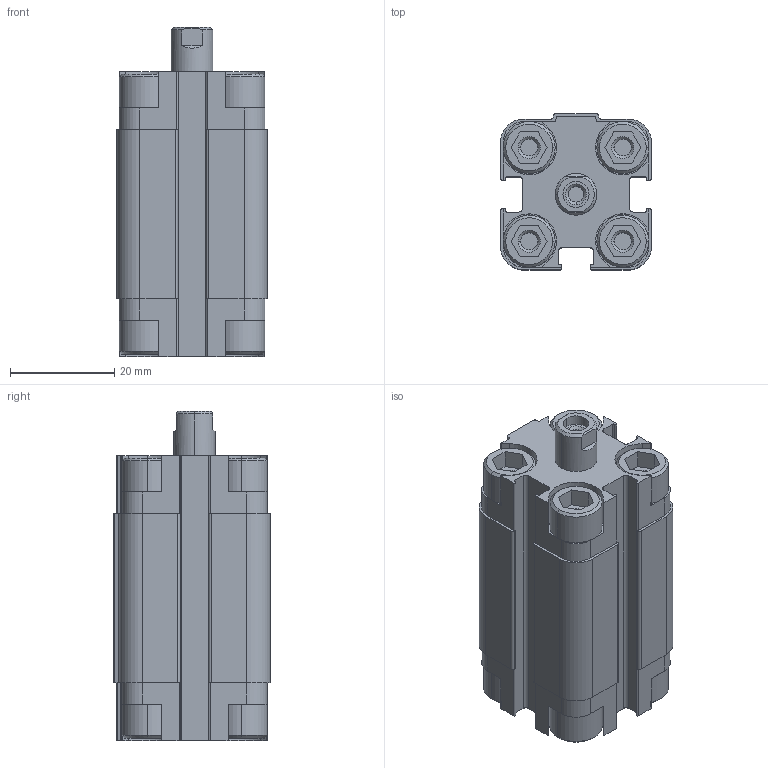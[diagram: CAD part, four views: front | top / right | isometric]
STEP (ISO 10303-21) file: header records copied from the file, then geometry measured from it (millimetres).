
FILE_DESCRIPTION (( 'STEP AP203' ), '1' );
FILE_NAME ('QF0160020A.step', '2012-10-18T17:03:12', ( '' ), ( '' ), 'SwSTEP 2.0', 'SolidWorks 2012', '' );
FILE_SCHEMA (( 'CONFIG_CONTROL_DESIGN' ));
Length unit declared in the file: millimetre
Products named in the file (1): QF0160020A
Bounding box: 29 x 30 x 63.3 mm (x, y, z)
Volume: 37533.9 mm3; surface area: 13035.5 mm2
Topology: 1 solids, 1 shells, 343 faces, 900 edges, 577 vertices
Faces by surface type: plane 192, cylinder 106, cone 45
Entity records: 10586 total; most frequent: DIRECTION 1853, CARTESIAN_POINT 1847, ORIENTED_EDGE 1792, EDGE_CURVE 896, AXIS2_PLACEMENT_3D 623, LINE 607, VECTOR 607, VERTEX_POINT 577
